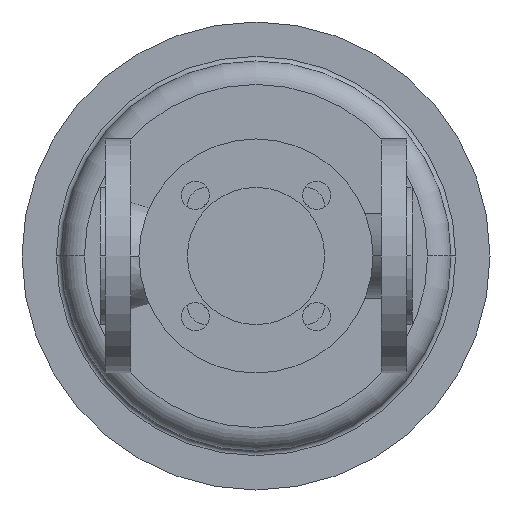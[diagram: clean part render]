
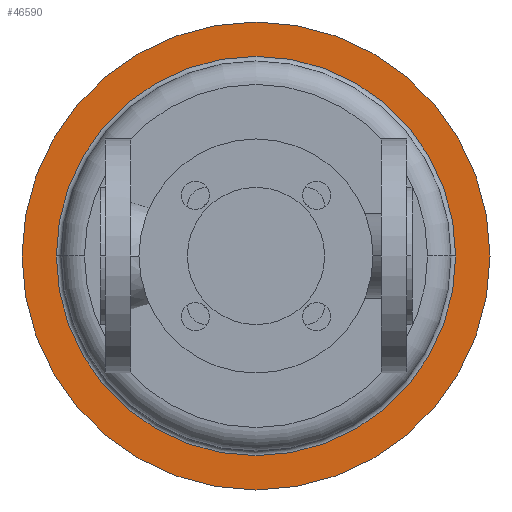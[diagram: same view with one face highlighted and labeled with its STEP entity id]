
A CAD part, front view. The second image highlights one B-rep face of the part: STEP entity #46590.
In plain terms, the highlighted planar face has unit normal (0, -1, 0).
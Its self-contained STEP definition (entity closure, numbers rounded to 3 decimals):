
#37910=CARTESIAN_POINT('',(-50.,452.3,0.));
#37920=VERTEX_POINT('',#37910);
#38080=CARTESIAN_POINT('',(250.,452.3,0.));
#38090=VERTEX_POINT('',#38080);
#38120=CARTESIAN_POINT('',(100.,452.3,0.));
#38130=DIRECTION('',(0.,1.,0.));
#38140=DIRECTION('',(1.,0.,0.));
#38150=AXIS2_PLACEMENT_3D('',#38120,#38130,#38140);
#38160=CIRCLE('',#38150,150.);
#38170=EDGE_CURVE('',#37920,#38090,#38160,.T.);
#38270=CARTESIAN_POINT('',(100.,452.3,0.));
#38280=DIRECTION('',(0.,1.,0.));
#38290=DIRECTION('',(1.,0.,0.));
#38300=AXIS2_PLACEMENT_3D('',#38270,#38280,#38290);
#38310=CIRCLE('',#38300,128.);
#38320=CARTESIAN_POINT('',(100.,452.3,-128.));
#38330=VERTEX_POINT('',#38320);
#38340=CARTESIAN_POINT('',(-28.,452.3,0.));
#38350=VERTEX_POINT('',#38340);
#38360=EDGE_CURVE('',#38330,#38350,#38310,.T.);
#38610=CARTESIAN_POINT('',(228.,452.3,0.));
#38620=VERTEX_POINT('',#38610);
#38650=EDGE_CURVE('',#38620,#38330,#38310,.T.);
#46430=CARTESIAN_POINT('',(239.,452.3,0.));
#46440=DIRECTION('',(0.,-1.,0.));
#46450=DIRECTION('',(-1.,0.,0.));
#46460=AXIS2_PLACEMENT_3D('',#46430,#46440,#46450);
#46470=PLANE('',#46460);
#46480=EDGE_CURVE('',#38090,#37920,#38160,.T.);
#46490=ORIENTED_EDGE('',*,*,#46480,.F.);
#46500=ORIENTED_EDGE('',*,*,#38170,.F.);
#46510=EDGE_LOOP('',(#46500,#46490));
#46520=FACE_OUTER_BOUND('',#46510,.T.);
#46530=EDGE_CURVE('',#38350,#38620,#38310,.T.);
#46540=ORIENTED_EDGE('',*,*,#46530,.T.);
#46550=ORIENTED_EDGE('',*,*,#38360,.T.);
#46560=ORIENTED_EDGE('',*,*,#38650,.T.);
#46570=EDGE_LOOP('',(#46560,#46550,#46540));
#46580=FACE_BOUND('',#46570,.T.);
#46590=ADVANCED_FACE('',(#46520,#46580),#46470,.T.);
